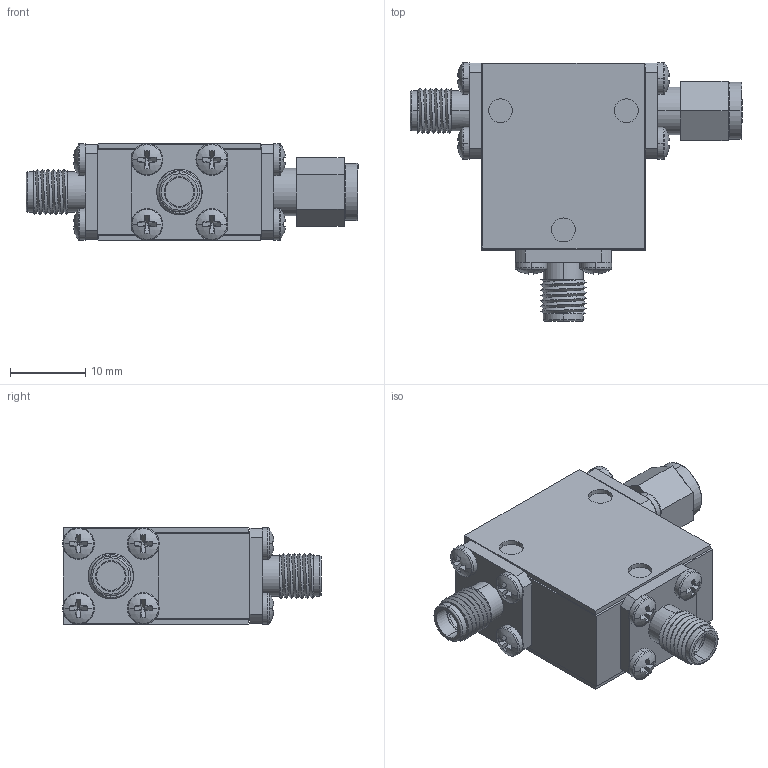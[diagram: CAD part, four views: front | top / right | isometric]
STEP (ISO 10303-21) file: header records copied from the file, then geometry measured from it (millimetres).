
FILE_DESCRIPTION (( 'STEP AP214' ), '1' );
FILE_NAME ('Package 4-2 Circ FMF - Cryo Unshielded.STEP', '2023-12-20T00:13:59', ( '' ), ( '' ), 'SwSTEP 2.0', 'SolidWorks 2016', '' );
FILE_SCHEMA (( 'AUTOMOTIVE_DESIGN' ));
Length unit declared in the file: inch
Products named in the file (6): WR052; pan cross head_ai_CR-PHMS 0.086-56x0.125x0.125-N; Package Size 4; Package 4-2 Circ FMF - Cryo Unshielded; Delta SMA-Male; Delta SMA-Female 0.500 flange Threaded
Assembly tree (17 placements, depth 2):
  Package 4-2 Circ FMF - Cryo Unshielded
    Package Size 4
    Delta SMA-Female 0.500 flange Threaded  x2
    pan cross head_ai_CR-PHMS 0.086-56x0.125x0.125-N  x12
    Delta SMA-Male
    WR052
Bounding box: 44.25 x 34.51 x 12.88 mm (x, y, z)
Volume: 8275.8 mm3; surface area: 7826.6 mm2
Topology: 17 solids, 17 shells, 437 faces, 1000 edges, 618 vertices
Faces by surface type: plane 241, cylinder 132, torus 34, sphere 24, bspline 6
Entity records: 5473 total; most frequent: CARTESIAN_POINT 1486, DIRECTION 849, ORIENTED_EDGE 710, EDGE_CURVE 355, AXIS2_PLACEMENT_3D 340, VERTEX_POINT 227, EDGE_LOOP 192, CIRCLE 178
